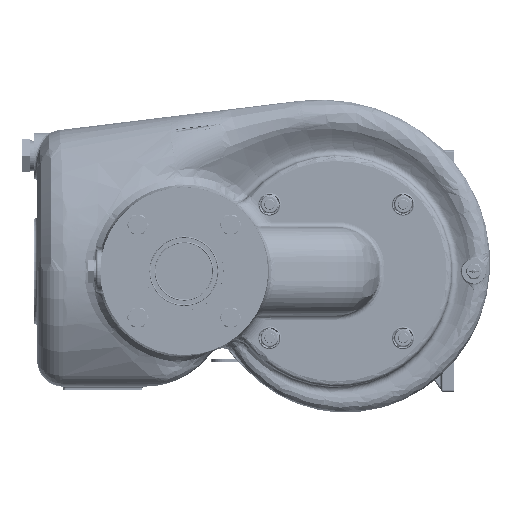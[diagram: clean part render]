
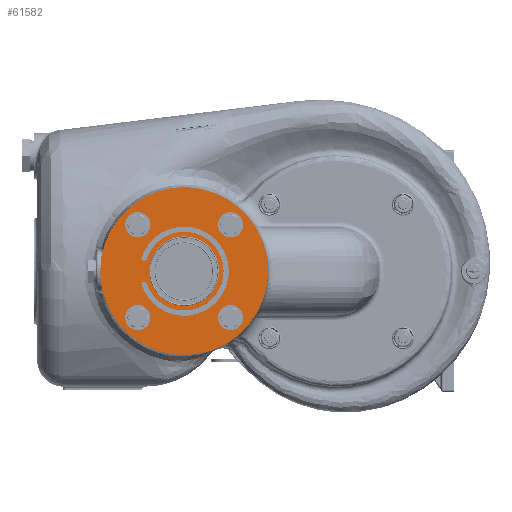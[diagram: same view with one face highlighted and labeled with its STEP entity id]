
A CAD part, left-side view. The second image highlights one B-rep face of the part: STEP entity #61582.
In plain terms, the highlighted planar face has unit normal (-1, 0, 0).
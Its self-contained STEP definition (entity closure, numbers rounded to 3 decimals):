
#60816=CARTESIAN_POINT('',(0.,0.,0.));
#60817=DIRECTION('',(-1.,0.,0.));
#60818=DIRECTION('',(0.,1.,0.));
#60819=AXIS2_PLACEMENT_3D('',#60816,#60817,#60818);
#60821=CARTESIAN_POINT('',(0.,0.,0.));
#60822=DIRECTION('',(1.,0.,0.));
#60823=DIRECTION('',(0.,1.,0.));
#60824=AXIS2_PLACEMENT_3D('',#60821,#60822,#60823);
#60826=CARTESIAN_POINT('',(0.,0.,0.));
#60827=DIRECTION('',(-1.,0.,0.));
#60828=DIRECTION('',(0.,-1.,0.));
#60829=AXIS2_PLACEMENT_3D('',#60826,#60827,#60828);
#60831=CARTESIAN_POINT('',(0.,0.,0.));
#60832=DIRECTION('',(-1.,0.,0.));
#60833=DIRECTION('',(0.,1.,0.));
#60834=AXIS2_PLACEMENT_3D('',#60831,#60832,#60833);
#60836=CARTESIAN_POINT('',(0.,44.194,44.194));
#60837=DIRECTION('',(-1.,0.,0.));
#60838=DIRECTION('',(0.,-1.,0.));
#60839=AXIS2_PLACEMENT_3D('',#60836,#60837,#60838);
#60841=CARTESIAN_POINT('',(0.,44.194,44.194));
#60842=DIRECTION('',(-1.,0.,0.));
#60843=DIRECTION('',(0.,1.,0.));
#60844=AXIS2_PLACEMENT_3D('',#60841,#60842,#60843);
#60846=CARTESIAN_POINT('',(0.,-44.194,44.194));
#60847=DIRECTION('',(-1.,0.,0.));
#60848=DIRECTION('',(0.,0.,-1.));
#60849=AXIS2_PLACEMENT_3D('',#60846,#60847,#60848);
#60851=CARTESIAN_POINT('',(0.,-44.194,44.194));
#60852=DIRECTION('',(-1.,0.,0.));
#60853=DIRECTION('',(0.,0.,1.));
#60854=AXIS2_PLACEMENT_3D('',#60851,#60852,#60853);
#60856=CARTESIAN_POINT('',(0.,-44.194,-44.194));
#60857=DIRECTION('',(-1.,0.,0.));
#60858=DIRECTION('',(0.,1.,0.));
#60859=AXIS2_PLACEMENT_3D('',#60856,#60857,#60858);
#60861=CARTESIAN_POINT('',(0.,-44.194,-44.194));
#60862=DIRECTION('',(-1.,0.,0.));
#60863=DIRECTION('',(0.,-1.,0.));
#60864=AXIS2_PLACEMENT_3D('',#60861,#60862,#60863);
#60866=CARTESIAN_POINT('',(0.,44.194,-44.194));
#60867=DIRECTION('',(-1.,0.,0.));
#60868=DIRECTION('',(0.,0.,1.));
#60869=AXIS2_PLACEMENT_3D('',#60866,#60867,#60868);
#60871=CARTESIAN_POINT('',(0.,44.194,-44.194));
#60872=DIRECTION('',(-1.,0.,0.));
#60873=DIRECTION('',(0.,0.,-1.));
#60874=AXIS2_PLACEMENT_3D('',#60871,#60872,#60873);
#60906=CARTESIAN_POINT('',(0.,0.,0.));
#60907=DIRECTION('',(1.,0.,0.));
#60908=DIRECTION('',(0.,0.953,0.304));
#60909=AXIS2_PLACEMENT_3D('',#60906,#60907,#60908);
#60911=DIRECTION('',(0.,-1.,0.));
#60912=VECTOR('',#60911,1.048);
#60913=CARTESIAN_POINT('',(0.,38.681,-10.));
#60914=LINE('',#60913,#60912);
#60915=CARTESIAN_POINT('',(0.,0.,0.));
#60916=DIRECTION('',(1.,0.,0.));
#60917=DIRECTION('',(0.,0.955,0.296));
#60918=AXIS2_PLACEMENT_3D('',#60915,#60916,#60917);
#60920=DIRECTION('',(0.,1.,0.));
#60921=VECTOR('',#60920,1.048);
#60922=CARTESIAN_POINT('',(0.,37.633,10.));
#60923=LINE('',#60922,#60921);
#61074=CARTESIAN_POINT('',(0.,37.633,-12.));
#61075=DIRECTION('',(1.,0.,0.));
#61076=DIRECTION('',(0.,0.,1.));
#61077=AXIS2_PLACEMENT_3D('',#61074,#61075,#61076);
#61092=CARTESIAN_POINT('',(0.,38.681,-12.));
#61093=DIRECTION('',(1.,0.,0.));
#61094=DIRECTION('',(0.,0.955,-0.296));
#61095=AXIS2_PLACEMENT_3D('',#61092,#61093,#61094);
#61110=CARTESIAN_POINT('',(0.,38.681,12.));
#61111=DIRECTION('',(1.,0.,0.));
#61112=DIRECTION('',(0.,0.,-1.));
#61113=AXIS2_PLACEMENT_3D('',#61110,#61111,#61112);
#61128=CARTESIAN_POINT('',(0.,37.633,12.));
#61129=DIRECTION('',(1.,0.,0.));
#61130=DIRECTION('',(0.,-0.953,-0.304));
#61131=AXIS2_PLACEMENT_3D('',#61128,#61129,#61130);
#61238=CARTESIAN_POINT('',(0.,80.,0.));
#61240=VERTEX_POINT('',#61238);
#61242=CARTESIAN_POINT('',(0.,-80.,0.));
#61244=VERTEX_POINT('',#61242);
#61251=CARTESIAN_POINT('',(0.,37.444,44.194));
#61252=CARTESIAN_POINT('',(0.,50.944,44.194));
#61253=VERTEX_POINT('',#61251);
#61254=VERTEX_POINT('',#61252);
#61259=CARTESIAN_POINT('',(0.,-44.194,37.444));
#61260=CARTESIAN_POINT('',(0.,-44.194,50.944));
#61261=VERTEX_POINT('',#61259);
#61262=VERTEX_POINT('',#61260);
#61267=CARTESIAN_POINT('',(0.,-37.444,-44.194));
#61268=CARTESIAN_POINT('',(0.,-50.944,-44.194));
#61269=VERTEX_POINT('',#61267);
#61270=VERTEX_POINT('',#61268);
#61275=CARTESIAN_POINT('',(0.,44.194,-37.444));
#61276=CARTESIAN_POINT('',(0.,44.194,-50.944));
#61277=VERTEX_POINT('',#61275);
#61278=VERTEX_POINT('',#61276);
#61279=CARTESIAN_POINT('',(0.,-33.171,0.));
#61280=CARTESIAN_POINT('',(0.,33.171,0.));
#61281=VERTEX_POINT('',#61279);
#61282=VERTEX_POINT('',#61280);
#61346=CARTESIAN_POINT('',(0.,38.681,-10.));
#61348=VERTEX_POINT('',#61346);
#61350=CARTESIAN_POINT('',(0.,40.592,-12.593));
#61352=VERTEX_POINT('',#61350);
#61354=CARTESIAN_POINT('',(0.,35.728,-11.392));
#61356=VERTEX_POINT('',#61354);
#61358=CARTESIAN_POINT('',(0.,37.633,-10.));
#61360=VERTEX_POINT('',#61358);
#61362=CARTESIAN_POINT('',(0.,40.592,12.593));
#61364=VERTEX_POINT('',#61362);
#61366=CARTESIAN_POINT('',(0.,38.681,10.));
#61368=VERTEX_POINT('',#61366);
#61370=CARTESIAN_POINT('',(0.,37.633,10.));
#61372=VERTEX_POINT('',#61370);
#61374=CARTESIAN_POINT('',(0.,35.728,11.392));
#61376=VERTEX_POINT('',#61374);
#61525=CARTESIAN_POINT('',(0.,0.,0.));
#61526=DIRECTION('',(1.,0.,0.));
#61527=DIRECTION('',(0.,-1.,0.));
#61528=AXIS2_PLACEMENT_3D('',#61525,#61526,#61527);
#61529=PLANE('',#61528);
#61530=ORIENTED_EDGE('',*,*,#61504,.F.);
#61531=ORIENTED_EDGE('',*,*,#61520,.T.);
#61532=EDGE_LOOP('',(#61530,#61531));
#61533=FACE_OUTER_BOUND('',#61532,.F.);
#61535=ORIENTED_EDGE('',*,*,#61534,.T.);
#61537=ORIENTED_EDGE('',*,*,#61536,.T.);
#61538=EDGE_LOOP('',(#61535,#61537));
#61539=FACE_BOUND('',#61538,.F.);
#61541=ORIENTED_EDGE('',*,*,#61540,.T.);
#61543=ORIENTED_EDGE('',*,*,#61542,.T.);
#61544=EDGE_LOOP('',(#61541,#61543));
#61545=FACE_BOUND('',#61544,.F.);
#61547=ORIENTED_EDGE('',*,*,#61546,.T.);
#61549=ORIENTED_EDGE('',*,*,#61548,.T.);
#61550=EDGE_LOOP('',(#61547,#61549));
#61551=FACE_BOUND('',#61550,.F.);
#61553=ORIENTED_EDGE('',*,*,#61552,.T.);
#61555=ORIENTED_EDGE('',*,*,#61554,.T.);
#61556=EDGE_LOOP('',(#61553,#61555));
#61557=FACE_BOUND('',#61556,.F.);
#61559=ORIENTED_EDGE('',*,*,#61558,.T.);
#61561=ORIENTED_EDGE('',*,*,#61560,.T.);
#61562=EDGE_LOOP('',(#61559,#61561));
#61563=FACE_BOUND('',#61562,.F.);
#61565=ORIENTED_EDGE('',*,*,#61564,.T.);
#61567=ORIENTED_EDGE('',*,*,#61566,.F.);
#61569=ORIENTED_EDGE('',*,*,#61568,.F.);
#61571=ORIENTED_EDGE('',*,*,#61570,.F.);
#61573=ORIENTED_EDGE('',*,*,#61572,.F.);
#61575=ORIENTED_EDGE('',*,*,#61574,.F.);
#61577=ORIENTED_EDGE('',*,*,#61576,.F.);
#61579=ORIENTED_EDGE('',*,*,#61578,.F.);
#61580=EDGE_LOOP('',(#61565,#61567,#61569,#61571,#61573,#61575,#61577,#61579));
#61581=FACE_BOUND('',#61580,.F.);
#61582=ADVANCED_FACE('',(#61533,#61539,#61545,#61551,#61557,#61563,#61581),
#61529,.F.);
#60820=CIRCLE('',#60819,80.);
#60825=CIRCLE('',#60824,80.);
#60830=CIRCLE('',#60829,33.171);
#60835=CIRCLE('',#60834,33.171);
#60840=CIRCLE('',#60839,6.75);
#60845=CIRCLE('',#60844,6.75);
#60850=CIRCLE('',#60849,6.75);
#60855=CIRCLE('',#60854,6.75);
#60860=CIRCLE('',#60859,6.75);
#60865=CIRCLE('',#60864,6.75);
#60870=CIRCLE('',#60869,6.75);
#60875=CIRCLE('',#60874,6.75);
#60910=CIRCLE('',#60909,37.5);
#60919=CIRCLE('',#60918,42.5);
#61078=CIRCLE('',#61077,2.);
#61096=CIRCLE('',#61095,2.);
#61114=CIRCLE('',#61113,2.);
#61132=CIRCLE('',#61131,2.);
#61504=EDGE_CURVE('',#61240,#61244,#60820,.T.);
#61520=EDGE_CURVE('',#61240,#61244,#60825,.T.);
#61534=EDGE_CURVE('',#61281,#61282,#60830,.T.);
#61536=EDGE_CURVE('',#61282,#61281,#60835,.T.);
#61540=EDGE_CURVE('',#61253,#61254,#60840,.T.);
#61542=EDGE_CURVE('',#61254,#61253,#60845,.T.);
#61546=EDGE_CURVE('',#61261,#61262,#60850,.T.);
#61548=EDGE_CURVE('',#61262,#61261,#60855,.T.);
#61552=EDGE_CURVE('',#61269,#61270,#60860,.T.);
#61554=EDGE_CURVE('',#61270,#61269,#60865,.T.);
#61558=EDGE_CURVE('',#61277,#61278,#60870,.T.);
#61560=EDGE_CURVE('',#61278,#61277,#60875,.T.);
#61564=EDGE_CURVE('',#61376,#61356,#60910,.T.);
#61566=EDGE_CURVE('',#61360,#61356,#61078,.T.);
#61568=EDGE_CURVE('',#61348,#61360,#60914,.T.);
#61570=EDGE_CURVE('',#61352,#61348,#61096,.T.);
#61572=EDGE_CURVE('',#61364,#61352,#60919,.T.);
#61574=EDGE_CURVE('',#61368,#61364,#61114,.T.);
#61576=EDGE_CURVE('',#61372,#61368,#60923,.T.);
#61578=EDGE_CURVE('',#61376,#61372,#61132,.T.);
